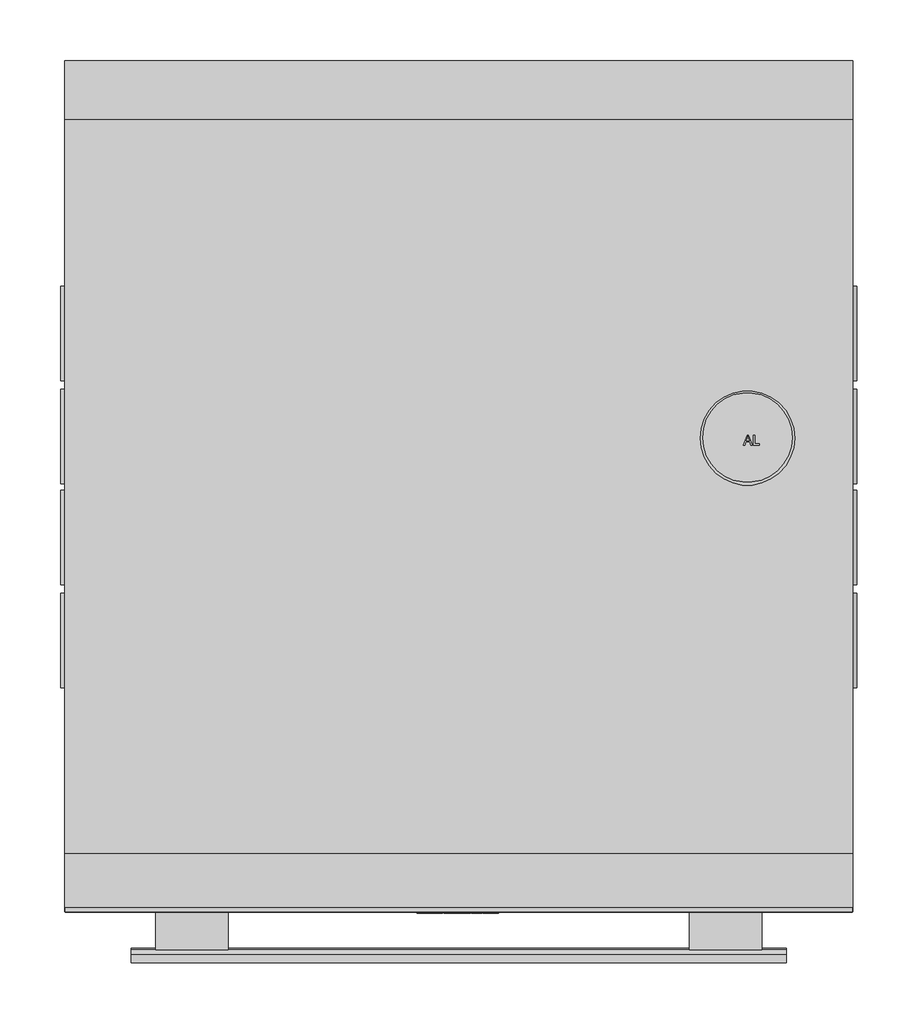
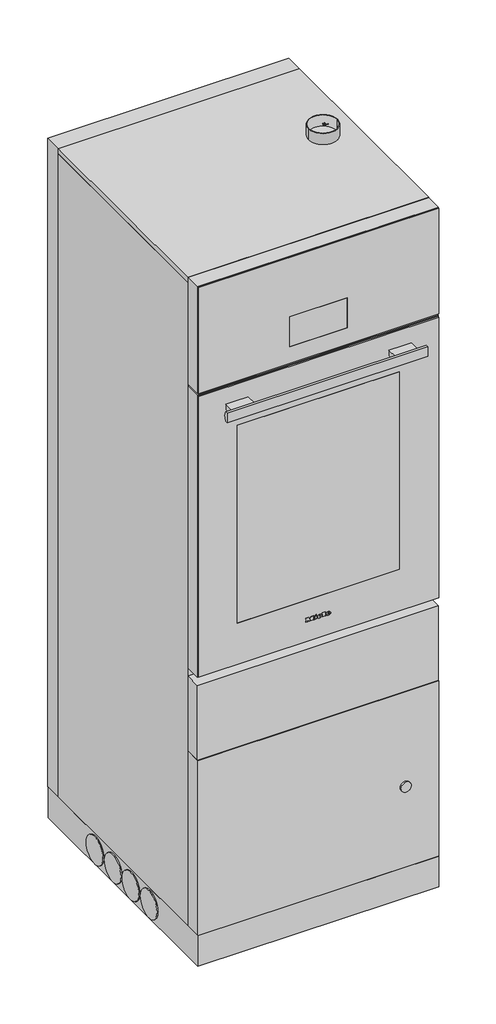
# Not in any storey: 1 proxy.
"""IFC4 building model written with IfcOpenShell, lengths in millimetres."""

from ifc_helpers import new_model, si_unit, origin, place, context, project, spatial, transform, mapped, element, save
from components import specialty_equipment_a3ce516c

model = new_model("IFC4")

# Units and contexts
model_context = context("Model", 3, world=origin())
ifc_project = project(units=[si_unit("LENGTHUNIT", "METRE", prefix="MILLI")], contexts=[model_context])

# Site, building
site = spatial("IfcSite", under=ifc_project)
building = spatial("IfcBuilding", under=site)

# Proxy
placement = place(None, origin())
specialty_equipment_shape = specialty_equipment_a3ce516c(model_context)
element("IfcBuildingElementProxy", 1, Name="12278800_SE1_PLW7111 : 62711138_SE1_12278800_PLW7111", ObjectType="12278800_SE1_PLW7111 : 62711138_SE1_12278800_PLW7111", at=placement, inside=building, context=model_context, shape_type="MappedRepresentation", body=[
    mapped(specialty_equipment_shape, transform((0.0, 0.0, 0.0), x_axis=(1.0, 0.0, 0.0), y_axis=(0.0, 1.0, 0.0), z_axis=(0.0, 0.0, 1.0))),
])

save(model, "model.ifc")
